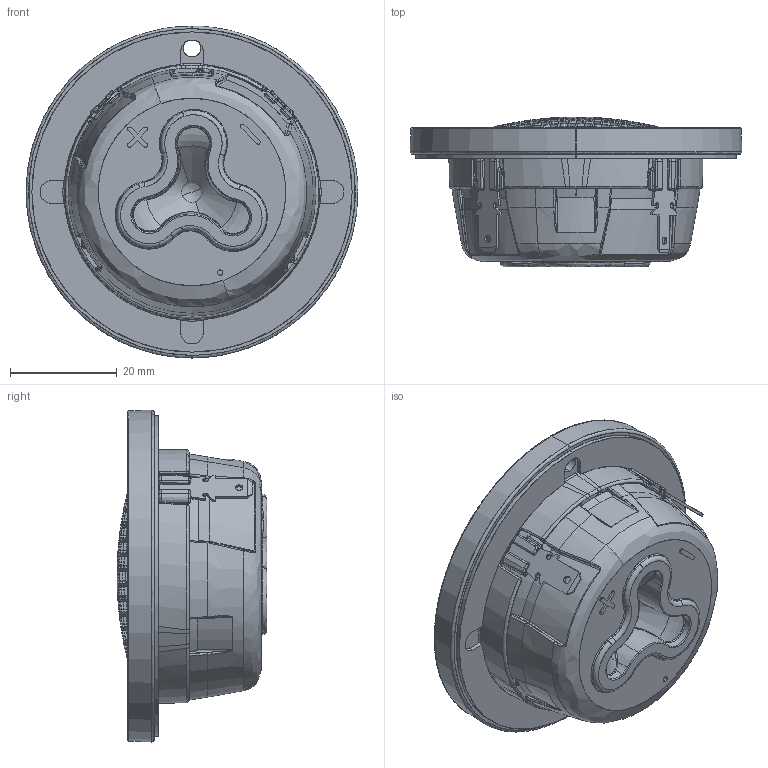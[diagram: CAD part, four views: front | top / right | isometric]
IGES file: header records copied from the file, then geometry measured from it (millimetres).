
Start section: SolidWorks IGES file using analytic representation for surfaces
Global section: file name: W:\TT\D30\D3004-604000\D3004-604005.IGS; native system: SolidWorks 2019; preprocessor: SolidWorks 2019; author: mhn; date: 201215.113931; units: millimetre
Bounding box: 62.21 x 28.08 x 62.21 mm (x, y, z)
Surface area: 14344.9 mm2 (no closed solid volume)
Topology: 0 solids, 0 shells, 1969 faces, 15983 edges, 15968 vertices
Faces by surface type: bspline 1564, revolution 405
